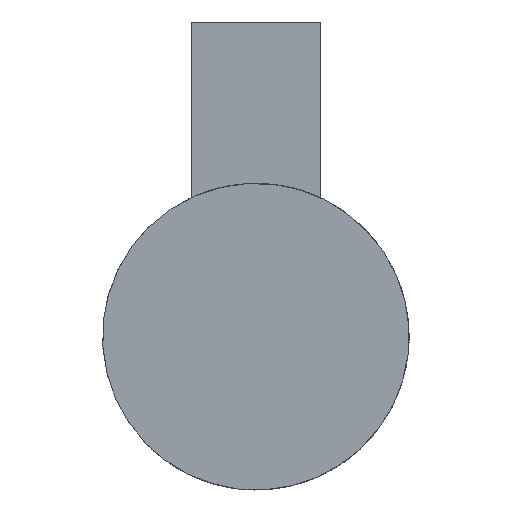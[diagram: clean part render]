
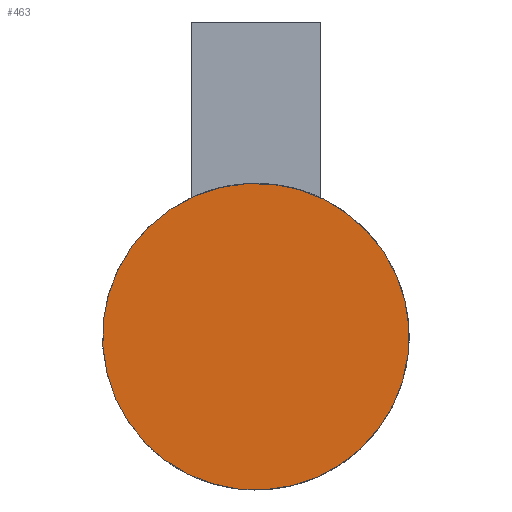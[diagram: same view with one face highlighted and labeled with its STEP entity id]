
A CAD part, left-side view. The second image highlights one B-rep face of the part: STEP entity #463.
In plain terms, the highlighted planar face has unit normal (-1, 0, 0).
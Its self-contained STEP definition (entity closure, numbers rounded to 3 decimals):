
#48 = DIRECTION ( 'NONE',  ( 1., 0., 0. ) ) ;
#57 = AXIS2_PLACEMENT_3D ( 'NONE', #626, #522, #635 ) ;
#106 = EDGE_CURVE ( 'NONE', #619, #563, #378, .T. ) ;
#111 = ORIENTED_EDGE ( 'NONE', *, *, #106, .F. ) ;
#156 = AXIS2_PLACEMENT_3D ( 'NONE', #483, #48, #159 ) ;
#159 = DIRECTION ( 'NONE',  ( 0., 1., 0. ) ) ;
#224 = AXIS2_PLACEMENT_3D ( 'NONE', #536, #543, #493 ) ;
#312 = ORIENTED_EDGE ( 'NONE', *, *, #526, .F. ) ;
#378 = CIRCLE ( 'NONE', #57, 9.5 ) ;
#395 = PLANE ( 'NONE',  #156 ) ;
#431 = EDGE_LOOP ( 'NONE', ( #111, #312 ) ) ;
#463 = ADVANCED_FACE ( 'NONE', ( #615 ), #395, .F. ) ;
#483 = CARTESIAN_POINT ( 'NONE',  ( 0., 9.88, 0. ) ) ;
#493 = DIRECTION ( 'NONE',  ( 0., 0., 1. ) ) ;
#522 = DIRECTION ( 'NONE',  ( 1., 0., 0. ) ) ;
#526 = EDGE_CURVE ( 'NONE', #563, #619, #667, .T. ) ;
#536 = CARTESIAN_POINT ( 'NONE',  ( 0., 0., 0. ) ) ;
#543 = DIRECTION ( 'NONE',  ( 1., 0., 0. ) ) ;
#554 = CARTESIAN_POINT ( 'NONE',  ( 0., 0.597, 9.481 ) ) ;
#563 = VERTEX_POINT ( 'NONE', #694 ) ;
#615 = FACE_OUTER_BOUND ( 'NONE', #431, .T. ) ;
#619 = VERTEX_POINT ( 'NONE', #554 ) ;
#626 = CARTESIAN_POINT ( 'NONE',  ( 0., 0., 0. ) ) ;
#635 = DIRECTION ( 'NONE',  ( 0., 0., 1. ) ) ;
#667 = CIRCLE ( 'NONE', #224, 9.5 ) ;
#694 = CARTESIAN_POINT ( 'NONE',  ( 0., -0.597, -9.481 ) ) ;
